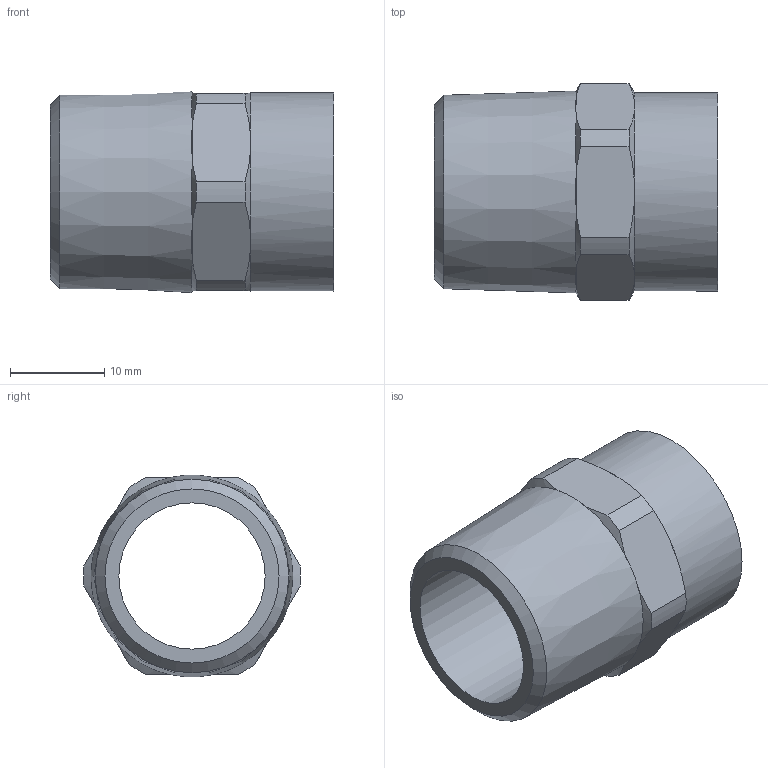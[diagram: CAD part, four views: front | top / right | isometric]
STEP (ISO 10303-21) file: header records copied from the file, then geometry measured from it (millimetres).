
FILE_DESCRIPTION((''),'2;1');
FILE_NAME('\\Lg50001\Groups\SANHA Legnica\Engineering\Public\RYSUNKI\SANHA POLSKA\4243G\step\14243_18-12(3).stp','2008-08-25T12:57:21',('pajchrowski'),(''),'Autodesk Inventor 2008','Autodesk Inventor 2008','');
FILE_SCHEMA(('AUTOMOTIVE_DESIGN { 1 0 10303 214 1 1 1 1 }'));
Length unit declared in the file: millimetre
Products named in the file (1): 14243_18-12(3)
Bounding box: 30 x 22.99 x 21.32 mm (x, y, z)
Volume: 3938.5 mm3; surface area: 3859.4 mm2
Topology: 1 solids, 1 shells, 44 faces, 98 edges, 57 vertices
Faces by surface type: plane 21, cone 14, cylinder 9
Full cylindrical faces by diameter (mm): 15.5 x1, 18.11 x1, 21 x1
Entity records: 1168 total; most frequent: CARTESIAN_POINT 239, DIRECTION 200, ORIENTED_EDGE 182, EDGE_CURVE 91, AXIS2_PLACEMENT_3D 88, VERTEX_POINT 55, EDGE_LOOP 52, FACE_OUTER_BOUND 44
